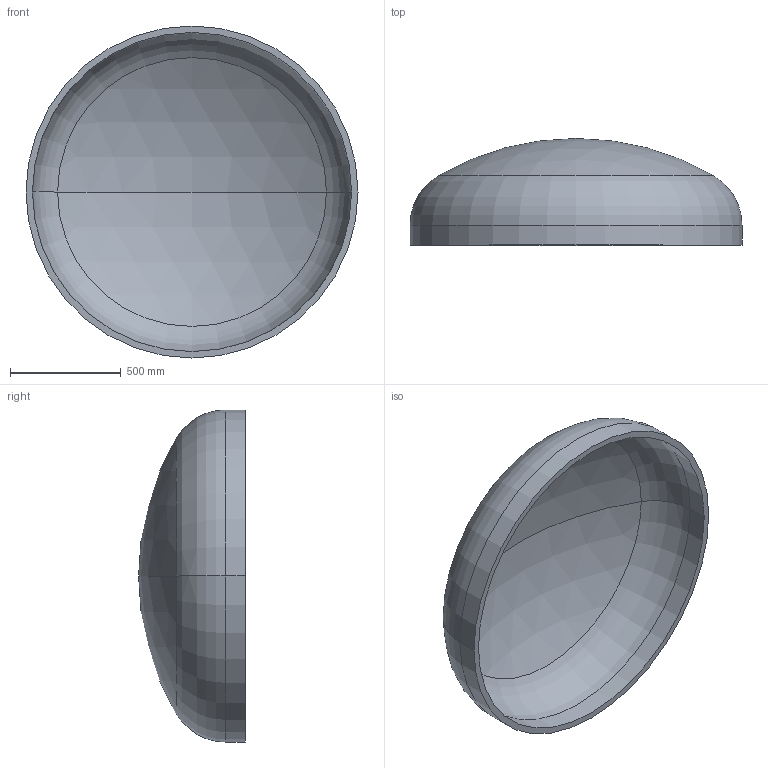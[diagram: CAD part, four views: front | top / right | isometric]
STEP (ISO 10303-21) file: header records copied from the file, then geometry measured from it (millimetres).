
FILE_DESCRIPTION (( 'STEP AP203' ), '1' );
FILE_NAME ('DIN 28013 Korbbogenform_-_Boden DIN 28013 - 1500 x 90 - I - s=29.step', '2016-07-01T10:41:55', ( '' ), ( '' ), 'SwSTEP 2.0', 'SolidWorks 2013', '' );
FILE_SCHEMA (( 'CONFIG_CONTROL_DESIGN' ));
Length unit declared in the file: millimetre
Products named in the file (1): DIN 28013 Korbbogenform_-_Boden DIN 28013 - 1500 x 90 - I - s=29
Bounding box: 1500 x 482.45 x 1500 mm (x, y, z)
Volume: 81194253.8 mm3; surface area: 5735380.5 mm2
Topology: 1 solids, 1 shells, 13 faces, 24 edges, 14 vertices
Faces by surface type: torus 4, cylinder 4, sphere 4, plane 1
Entity records: 407 total; most frequent: DIRECTION 72, CARTESIAN_POINT 52, ORIENTED_EDGE 48, AXIS2_PLACEMENT_3D 34, EDGE_CURVE 24, CIRCLE 20, VERTEX_POINT 14, EDGE_LOOP 14
